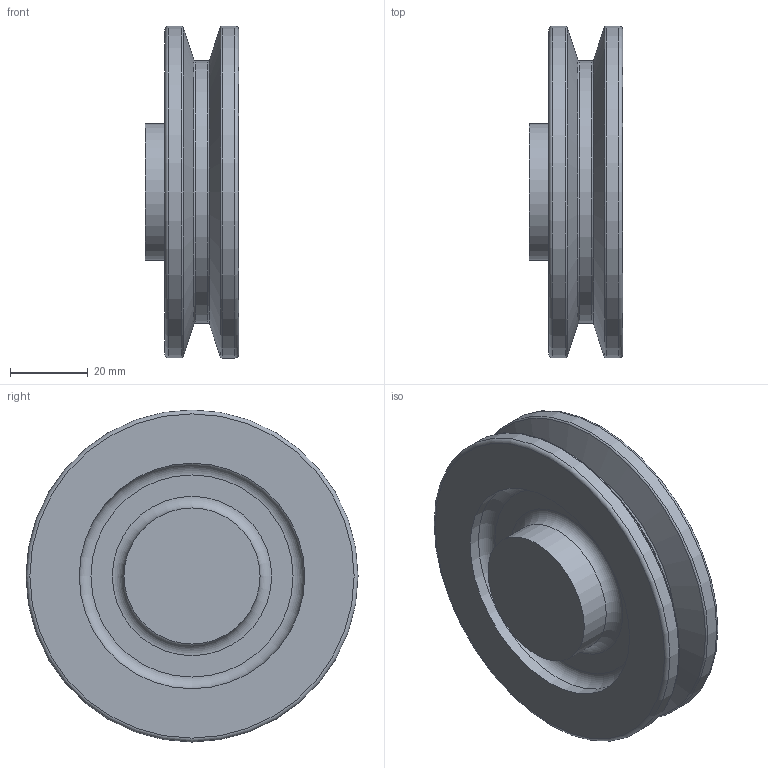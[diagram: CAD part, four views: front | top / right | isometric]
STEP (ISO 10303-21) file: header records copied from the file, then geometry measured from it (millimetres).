
FILE_DESCRIPTION((''),'2;1');
FILE_NAME('C:\Users\Administrator\Desktop\OldVersions\새 폴더\풀리.0001.stp','2019-09-28T11:44:42',('Administrator'),(''),'Autodesk Inventor 2013','Autodesk Inventor 2013','');
FILE_SCHEMA(('AUTOMOTIVE_DESIGN { 1 0 10303 214 1 1 1 1 }'));
Length unit declared in the file: millimetre
Products named in the file (1): 풀리
Bounding box: 24 x 85.4 x 85.4 mm (x, y, z)
Volume: 79492.4 mm3; surface area: 22284.2 mm2
Topology: 1 solids, 1 shells, 25 faces, 43 edges, 24 vertices
Faces by surface type: torus 10, cylinder 7, plane 6, cone 2
Full cylindrical faces by diameter (mm): 35 x2, 58 x2, 67.4 x1, 85.4 x2
Entity records: 520 total; most frequent: DIRECTION 100, CARTESIAN_POINT 74, AXIS2_PLACEMENT_3D 50, ORIENTED_EDGE 48, EDGE_LOOP 48, FACE_OUTER_BOUND 25, ADVANCED_FACE 25, VERTEX_POINT 24
